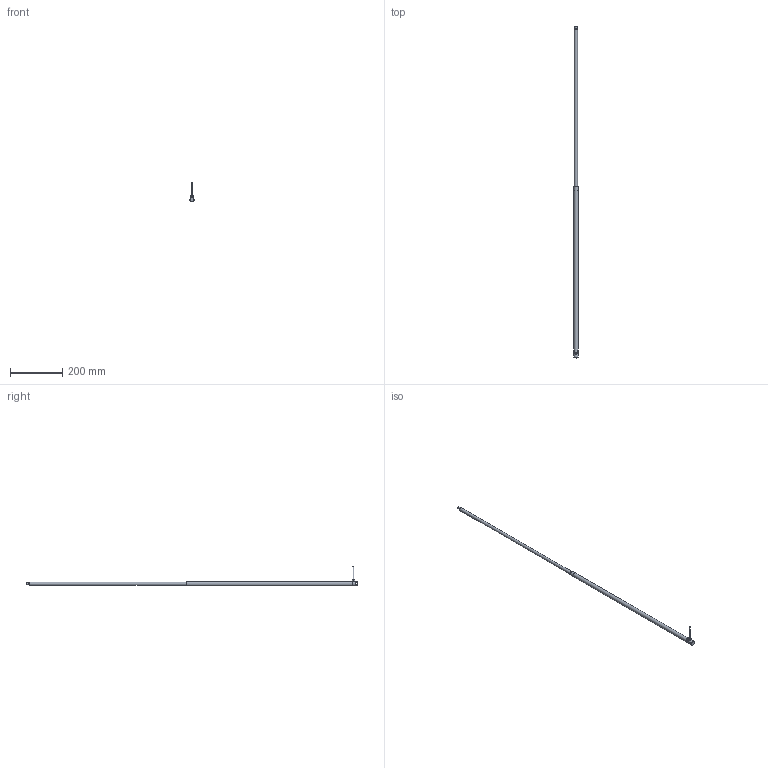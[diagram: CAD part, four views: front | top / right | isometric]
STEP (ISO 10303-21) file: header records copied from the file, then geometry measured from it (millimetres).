
FILE_DESCRIPTION(/* description */ ('Unknown'),/* implementation_level */ '2;1');
FILE_NAME(/* name */ '107.00076 Zylinder CE 1460_ausgefahren',/* time_stamp */ '2018-05-18T17:14:00+02:00',/* author */ ('Unknown'),/* organization */ ('Unknown'),/* preprocessor_version */ 'ST-DEVELOPER v16.7',/* originating_system */ 'DEX',/* authorisation */ $);
FILE_SCHEMA (('AUTOMOTIVE_DESIGN {1 0 10303 214 3 1 1}'));
Length unit declared in the file: millimetre
Products named in the file (9): 107.00076; 121.00006; 142.00021; 125.00021; 115.00001_oa_0; 125.00034; 120.00026; 122.00001; 113.00002_70mm
Assembly tree (8 placements, depth 2):
  107.00076
    121.00006
    142.00021
    125.00021
    115.00001_oa_0
    125.00034
    120.00026
    122.00001
    113.00002_70mm
Bounding box: 16 x 1276 x 76 mm (x, y, z)
Volume: 107134.9 mm3; surface area: 90333.9 mm2
Topology: 7 solids, 7 shells, 86 faces, 182 edges, 116 vertices
Faces by surface type: plane 29, cylinder 28, cone 23, torus 5, sphere 1
Full cylindrical faces by diameter (mm): 2.2 x1, 3 x1, 3.5 x1, 4 x1, 4.1 x1, 4.2 x1, 6 x1, 6.917 x2, 7.763 x2, 8 x5, 8.1 x3, 9 x1, 12 x2, 13.9 x2, 14 x2, 16 x2
Entity records: 2678 total; most frequent: CARTESIAN_POINT 430, DIRECTION 356, ORIENTED_EDGE 220, AXIS2_PLACEMENT_3D 169, FACE_BOUND 161, EDGE_LOOP 159, EDGE_CURVE 110, VERTEX_POINT 99
